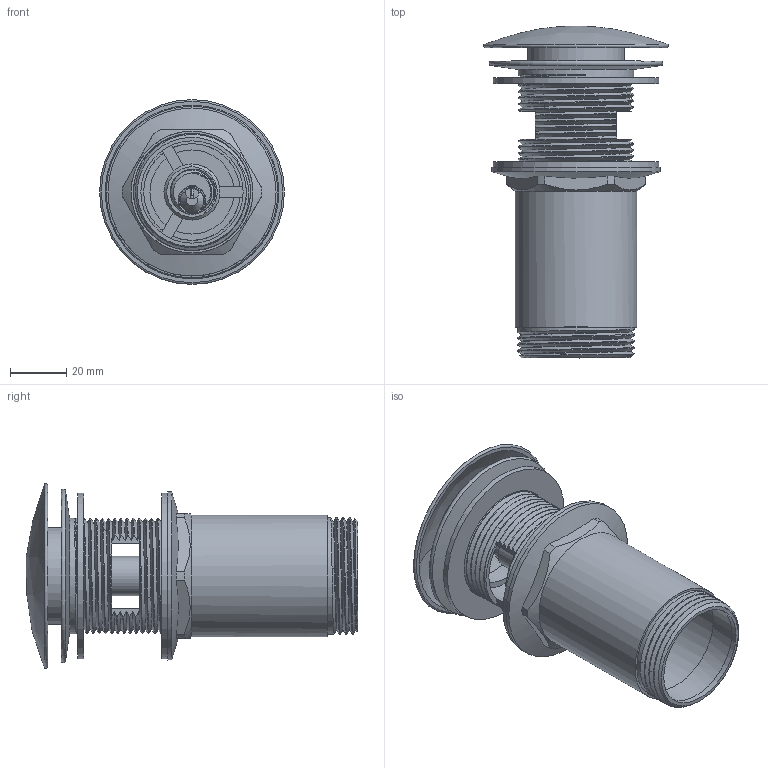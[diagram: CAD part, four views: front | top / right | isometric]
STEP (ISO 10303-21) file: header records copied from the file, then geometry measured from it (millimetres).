
FILE_DESCRIPTION(/* description */ (''),/* implementation_level */ '2;1');
FILE_NAME(/* name */ 'c:\worker\convert-fusion-r09\tmp\job-1\67\output\files\e4fe75d9-ccbc-42fc-8098-31d386a1be8a\c1e2cb7f-7d1d-4735-826e-1583839bc928.stp',/* time_stamp */ '2019-12-12T14:44:51+00:00',/* author */ (''),/* organization */ (''),/* preprocessor_version */ 'ST-DEVELOPER v18',/* originating_system */ 'Autodesk Translation Framework v8.12.0.6',/* authorisation */ '');
FILE_SCHEMA (('AUTOMOTIVE_DESIGN { 1 0 10303 214 3 1 1 }'));
Length unit declared in the file: millimetre
Products named in the file (1): !A706
Bounding box: 66 x 118.52 x 66 mm (x, y, z)
Volume: 43137.5 mm3; surface area: 70360.4 mm2
Topology: 8 solids, 9 shells, 316 faces, 996 edges, 706 vertices
Faces by surface type: cylinder 119, plane 89, bspline 68, cone 32, torus 7, sphere 1
Full cylindrical faces by diameter (mm): 1.3 x2, 1.35 x1, 4 x1, 5 x2, 5.808 x1, 6 x1, 6.5 x4, 10 x1, 12.5 x1, 13.5 x1, 13.999 x4, 14 x1, 14.5 x2, 15.71 x3, 17 x1, 30 x1, 31.5 x2, 32.5 x1, 34.5 x2, 36.5 x2, 37.2 x1, 37.5 x2, 39 x3, 41.2 x19, 41.8 x3, 42 x3, 43.5 x1, 52 x1, 59 x2, 60 x1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
Entity records: 197874 total; most frequent: CARTESIAN_POINT 189676, ORIENTED_EDGE 1990, DIRECTION 1365, EDGE_CURVE 995, VERTEX_POINT 706, AXIS2_PLACEMENT_3D 544, B_SPLINE_CURVE_WITH_KNOTS 374, EDGE_LOOP 347
